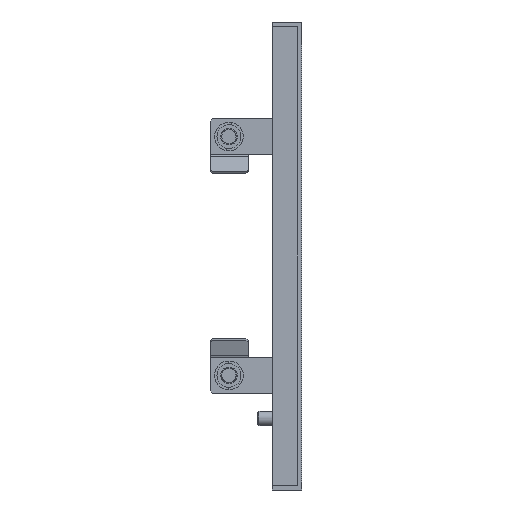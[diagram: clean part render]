
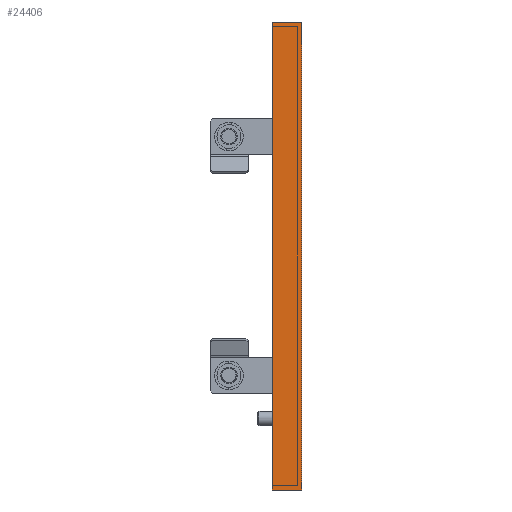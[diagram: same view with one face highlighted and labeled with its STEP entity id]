
A CAD part, front view. The second image highlights one B-rep face of the part: STEP entity #24406.
In plain terms, the highlighted planar face has unit normal (0, -1, 0).
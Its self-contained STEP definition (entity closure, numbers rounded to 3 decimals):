
#1177 = DIRECTION ( 'NONE',  ( 0., 0., 1. ) ) ;
#1606 = DIRECTION ( 'NONE',  ( 1., 0., 0. ) ) ;
#2055 = EDGE_CURVE ( 'NONE', #3299, #19141, #22991, .T. ) ;
#2920 = DIRECTION ( 'NONE',  ( -1., 0., 0. ) ) ;
#3169 = ORIENTED_EDGE ( 'NONE', *, *, #2055, .T. ) ;
#3299 = VERTEX_POINT ( 'NONE', #22643 ) ;
#3731 = CARTESIAN_POINT ( 'NONE',  ( 0., -397.5, -98. ) ) ;
#3939 = CARTESIAN_POINT ( 'NONE',  ( -12.5, -397.5, -98. ) ) ;
#5451 = DIRECTION ( 'NONE',  ( 0., 1., 0. ) ) ;
#5825 = AXIS2_PLACEMENT_3D ( 'NONE', #22816, #5451, #1606 ) ;
#7014 = LINE ( 'NONE', #22329, #24084 ) ;
#7350 = VERTEX_POINT ( 'NONE', #3731 ) ;
#8405 = EDGE_CURVE ( 'NONE', #7350, #9930, #20612, .T. ) ;
#9930 = VERTEX_POINT ( 'NONE', #11466 ) ;
#10063 = LINE ( 'NONE', #23470, #19080 ) ;
#11466 = CARTESIAN_POINT ( 'NONE',  ( 0., -397.5, 98. ) ) ;
#12294 = VECTOR ( 'NONE', #20956, 1000. ) ;
#12415 = EDGE_CURVE ( 'NONE', #9930, #3299, #10063, .T. ) ;
#13179 = CARTESIAN_POINT ( 'NONE',  ( -12.5, -397.5, 0. ) ) ;
#15046 = FACE_OUTER_BOUND ( 'NONE', #24756, .T. ) ;
#15796 = ORIENTED_EDGE ( 'NONE', *, *, #8405, .T. ) ;
#18899 = ORIENTED_EDGE ( 'NONE', *, *, #22642, .F. ) ;
#19080 = VECTOR ( 'NONE', #21427, 1000. ) ;
#19141 = VERTEX_POINT ( 'NONE', #3939 ) ;
#20496 = ORIENTED_EDGE ( 'NONE', *, *, #12415, .T. ) ;
#20538 = PLANE ( 'NONE',  #5825 ) ;
#20612 = LINE ( 'NONE', #20995, #24443 ) ;
#20956 = DIRECTION ( 'NONE',  ( 0., 0., -1. ) ) ;
#20995 = CARTESIAN_POINT ( 'NONE',  ( 0., -397.5, 0. ) ) ;
#21427 = DIRECTION ( 'NONE',  ( -1., 0., 0. ) ) ;
#22329 = CARTESIAN_POINT ( 'NONE',  ( 2.928, -397.5, -98. ) ) ;
#22642 = EDGE_CURVE ( 'NONE', #7350, #19141, #7014, .T. ) ;
#22643 = CARTESIAN_POINT ( 'NONE',  ( -12.5, -397.5, 98. ) ) ;
#22816 = CARTESIAN_POINT ( 'NONE',  ( -2., -397.5, 0. ) ) ;
#22991 = LINE ( 'NONE', #13179, #12294 ) ;
#23470 = CARTESIAN_POINT ( 'NONE',  ( 2.928, -397.5, 98. ) ) ;
#24084 = VECTOR ( 'NONE', #2920, 1000. ) ;
#24406 = ADVANCED_FACE ( 'NONE', ( #15046 ), #20538, .F. ) ;
#24443 = VECTOR ( 'NONE', #1177, 1000. ) ;
#24756 = EDGE_LOOP ( 'NONE', ( #18899, #15796, #20496, #3169 ) ) ;
